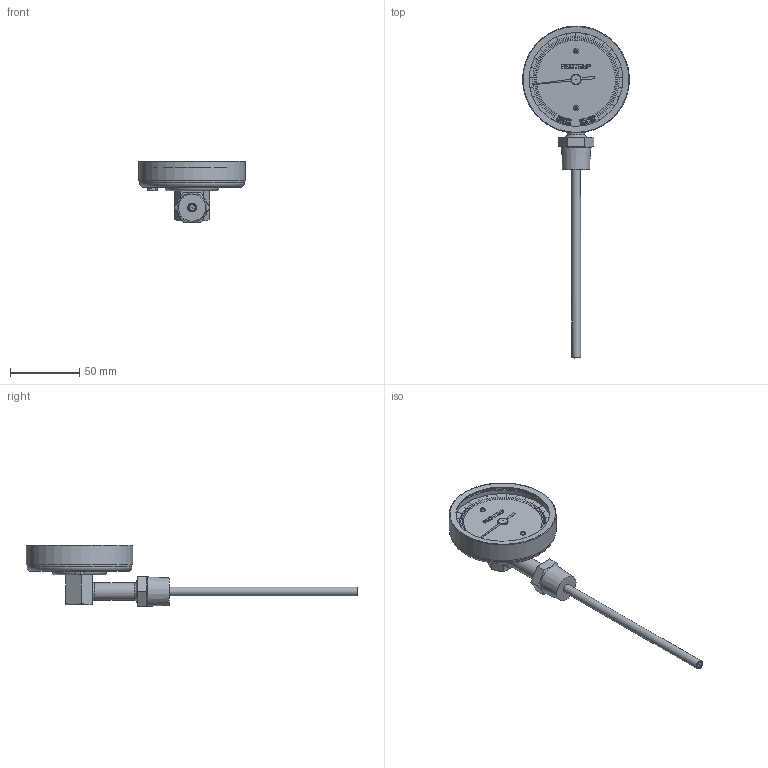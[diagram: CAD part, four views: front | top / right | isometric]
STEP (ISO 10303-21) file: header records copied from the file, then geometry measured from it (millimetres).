
FILE_DESCRIPTION(/* description */ (''),/* implementation_level */ '2;1');
FILE_NAME(/* name */ 'P:\3D Drawings\XR\XR-half-NPT\XR-half-NPT-STP\XR-half-NPT-STP.stp',/* time_stamp */ '2015-11-09T11:35:05-08:00',/* author */ ('charles'),/* organization */ (''),/* preprocessor_version */ 'ST-DEVELOPER v15.2',/* originating_system */ 'Autodesk Inventor 2014',/* authorisation */ '');
FILE_SCHEMA (('AUTOMOTIVE_DESIGN { 1 0 10303 214 3 1 1 }'));
Length unit declared in the file: inch
Products named in the file (1): XR-half-NPT
Bounding box: 77.45 x 240.42 x 44.83 mm (x, y, z)
Volume: 57267.9 mm3; surface area: 47262 mm2
Topology: 32 solids, 32 shells, 1671 faces, 4770 edges, 3178 vertices
Faces by surface type: plane 1248, bspline 383, cylinder 20, torus 10, cone 10
Full cylindrical faces by diameter (mm): 0.311 x1, 0.778 x1, 2.286 x4, 6.35 x1, 6.714 x1, 6.934 x2, 12.7 x1, 67.855 x1, 70.612 x2, 73.406 x1, 75.946 x1, 76.2 x1, 77.47 x1
Entity records: 59924 total; most frequent: CARTESIAN_POINT 16742, ORIENTED_EDGE 9464, DIRECTION 6569, EDGE_CURVE 4732, LINE 3855, VECTOR 3855, VERTEX_POINT 3172, EDGE_LOOP 2136
